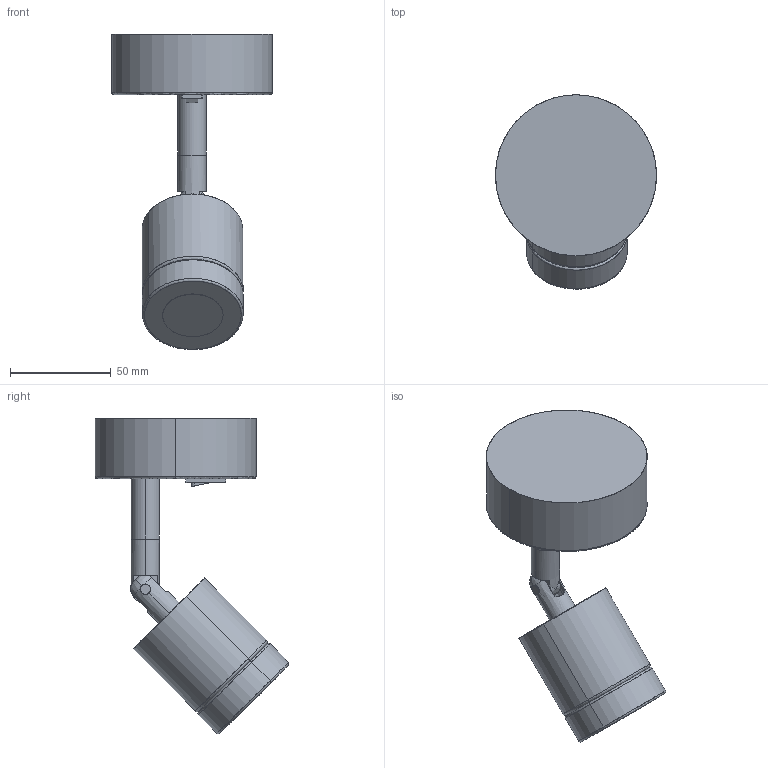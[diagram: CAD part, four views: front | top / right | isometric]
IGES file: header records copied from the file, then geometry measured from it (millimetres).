
Start section: SolidWorks IGES file using analytic representation for surfaces
Global section: file name: C:\Users\Agustin\Desktop\ENERO 2025\2D-3D\2D-3D TEA_1337\TEA_A1337\TEA_A1337.IGS; native system: SolidWorks 2018; preprocessor: SolidWorks 2018; author: Agustin; date: 250306.165042; units: millimetre
Bounding box: 80 x 96.37 x 156.74 mm (x, y, z)
Surface area: 47216.6 mm2 (no closed solid volume)
Topology: 0 solids, 0 shells, 111 faces, 2014 edges, 2010 vertices
Faces by surface type: bspline 58, revolution 53
